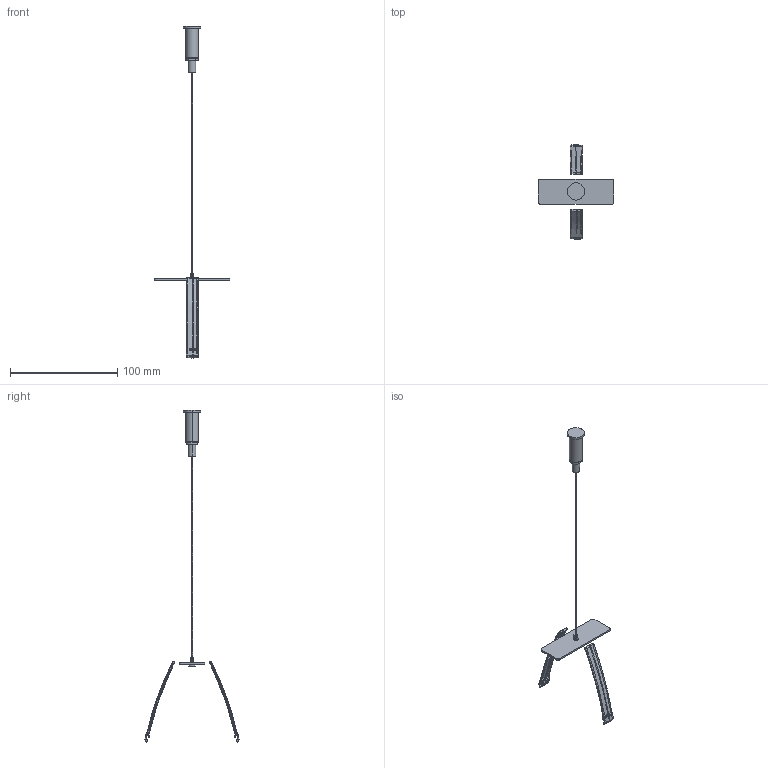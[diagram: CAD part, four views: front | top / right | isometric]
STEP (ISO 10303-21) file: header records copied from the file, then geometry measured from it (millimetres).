
FILE_DESCRIPTION(/* description */ (''),/* implementation_level */ '2;1');
FILE_NAME(/* name */ 'Intermediate Suspension Kit',/* time_stamp */ '2018-11-07T17:47:46+01:00',/* author */ (''),/* organization */ (''),/* preprocessor_version */ 'ST-DEVELOPER v15',/* originating_system */ '',/* authorisation */ '');
FILE_SCHEMA (('AUTOMOTIVE_DESIGN'));
Length unit declared in the file: millimetre
Products named in the file (1): Document
Bounding box: 70 x 87.56 x 309.05 mm (x, y, z)
Volume: 8004.2 mm3; surface area: 11294.5 mm2
Topology: 4 solids, 6 shells, 637 faces, 1482 edges, 846 vertices
Faces by surface type: bspline 484, plane 153
Entity records: 30624 total; most frequent: CARTESIAN_POINT 22206, ORIENTED_EDGE 2926, EDGE_CURVE 1466, VERTEX_POINT 846, B_SPLINE_CURVE_WITH_KNOTS 718, EDGE_LOOP 648, ADVANCED_FACE 637, FACE_OUTER_BOUND 637
